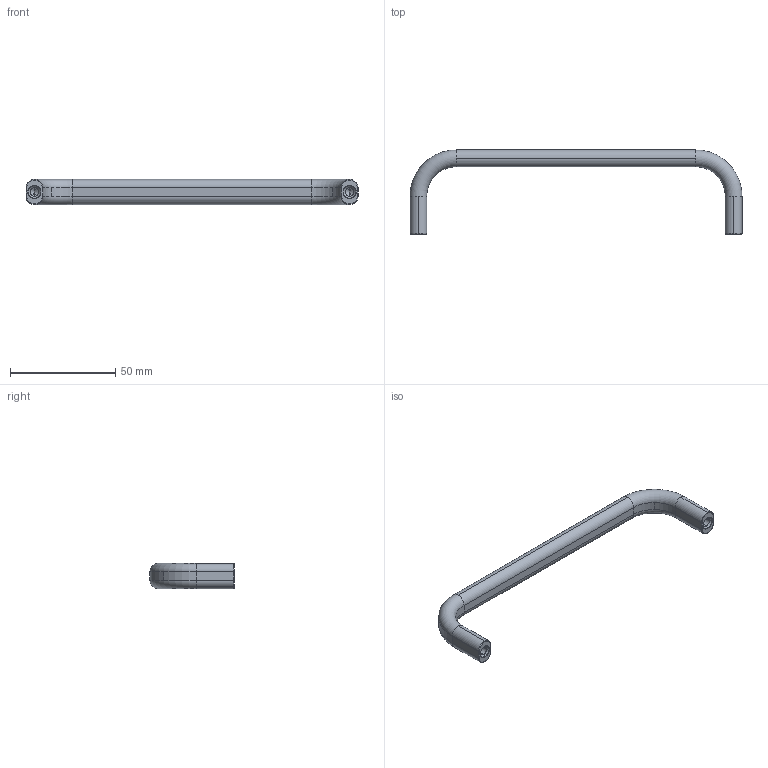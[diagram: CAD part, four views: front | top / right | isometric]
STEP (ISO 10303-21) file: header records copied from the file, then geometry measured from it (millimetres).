
FILE_DESCRIPTION((''),'2;1');
FILE_NAME('c:\wix\Knobs\7892\7892.W015.stp','2003-04-04T16:41:54',('joanc'),(''),'Autodesk Inventor (tm) 5.3','Autodesk Inventor (tm) 5.3','');
FILE_SCHEMA(('CONFIG_CONTROL_DESIGN'));
Length unit declared in the file: millimetre
Products named in the file (1): 7892.W015
Bounding box: 158 x 40 x 12 mm (x, y, z)
Volume: 16578.7 mm3; surface area: 7361.2 mm2
Topology: 1 solids, 1 shells, 72 faces, 166 edges, 94 vertices
Faces by surface type: cylinder 36, torus 16, cone 12, plane 8
Entity records: 2105 total; most frequent: DIRECTION 408, CARTESIAN_POINT 329, ORIENTED_EDGE 324, AXIS2_PLACEMENT_3D 173, EDGE_CURVE 162, CIRCLE 100, VERTEX_POINT 94, EDGE_LOOP 74
